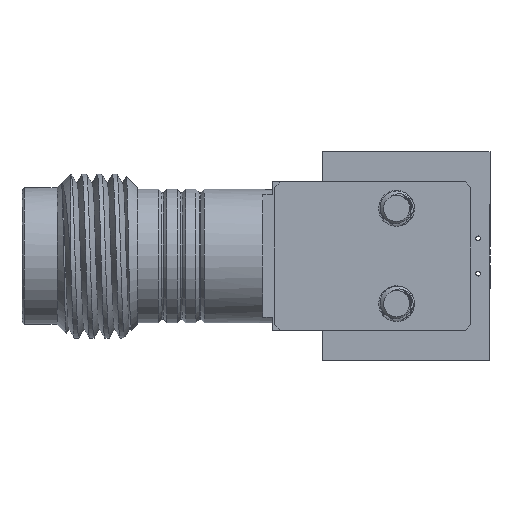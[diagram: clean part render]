
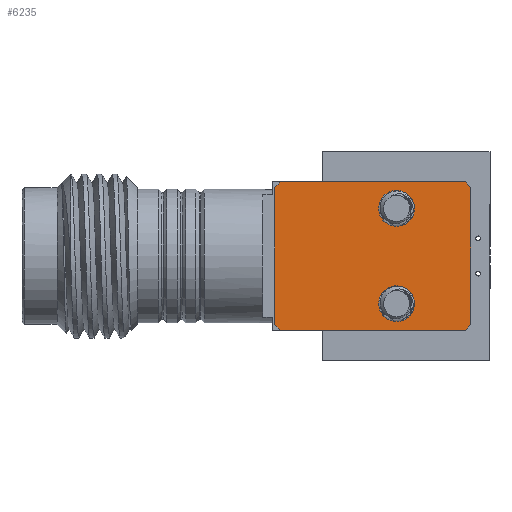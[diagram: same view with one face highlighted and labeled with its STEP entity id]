
A CAD part, front view. The second image highlights one B-rep face of the part: STEP entity #6235.
In plain terms, the highlighted planar face has unit normal (0, -1, 0) as drawn and (0, 0, -1) by its records, which use the part's own axes.
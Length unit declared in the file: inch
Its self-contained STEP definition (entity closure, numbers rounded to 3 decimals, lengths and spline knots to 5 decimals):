
#173 = CARTESIAN_POINT ( 'NONE',  ( 0.125, 0.115, 0. ) ) ;
#306 = VERTEX_POINT ( 'NONE', #14431 ) ;
#560 = DIRECTION ( 'NONE',  ( 1., 0., 0. ) ) ;
#629 = CARTESIAN_POINT ( 'NONE',  ( 0.125, -0.115, 0. ) ) ;
#1202 = VECTOR ( 'NONE', #1735, 39.37008 ) ;
#1251 = FACE_OUTER_BOUND ( 'NONE', #11007, .T. ) ;
#1386 = CARTESIAN_POINT ( 'NONE',  ( -0.205, -0.115, 0. ) ) ;
#1623 = AXIS2_PLACEMENT_3D ( 'NONE', #17322, #2413, #560 ) ;
#1735 = DIRECTION ( 'NONE',  ( -0.707, 0.707, 0. ) ) ;
#2097 = LINE ( 'NONE', #17217, #9589 ) ;
#2172 = CARTESIAN_POINT ( 'NONE',  ( -0.16, -0.16, 0. ) ) ;
#2413 = DIRECTION ( 'NONE',  ( 0., 0., 1. ) ) ;
#2868 = VERTEX_POINT ( 'NONE', #16639 ) ;
#2930 = VERTEX_POINT ( 'NONE', #629 ) ;
#3319 = VERTEX_POINT ( 'NONE', #8152 ) ;
#3535 = EDGE_CURVE ( 'NONE', #2868, #6765, #16944, .T. ) ;
#3659 = CARTESIAN_POINT ( 'NONE',  ( 0.125, 0.21868, 0. ) ) ;
#3806 = CARTESIAN_POINT ( 'NONE',  ( 0., 0.08, 0. ) ) ;
#4150 = ORIENTED_EDGE ( 'NONE', *, *, #5971, .F. ) ;
#4882 = VERTEX_POINT ( 'NONE', #1386 ) ;
#4918 = VERTEX_POINT ( 'NONE', #13208 ) ;
#4966 = CARTESIAN_POINT ( 'NONE',  ( 0., 0., 0. ) ) ;
#5395 = DIRECTION ( 'NONE',  ( 0., -1., 0. ) ) ;
#5714 = EDGE_CURVE ( 'NONE', #4918, #4918, #15525, .T. ) ;
#5971 = EDGE_CURVE ( 'NONE', #3319, #4882, #16548, .T. ) ;
#5995 = CARTESIAN_POINT ( 'NONE',  ( 0.02345, 0.08, 0. ) ) ;
#6235 = ADVANCED_FACE ( 'NONE', ( #16177, #14883, #1251 ), #21476, .T. ) ;
#6393 = VERTEX_POINT ( 'NONE', #19851 ) ;
#6765 = VERTEX_POINT ( 'NONE', #173 ) ;
#7292 = DIRECTION ( 'NONE',  ( 0., 0., 1. ) ) ;
#8108 = CARTESIAN_POINT ( 'NONE',  ( 0.12, -0.12, 0. ) ) ;
#8152 = CARTESIAN_POINT ( 'NONE',  ( -0.205, 0.115, 0. ) ) ;
#8418 = EDGE_CURVE ( 'NONE', #2868, #306, #10059, .T. ) ;
#8432 = LINE ( 'NONE', #8108, #11599 ) ;
#8472 = CARTESIAN_POINT ( 'NONE',  ( 0.12, 0.12, 0. ) ) ;
#8496 = VECTOR ( 'NONE', #9722, 39.37008 ) ;
#8949 = VECTOR ( 'NONE', #21422, 39.37008 ) ;
#8973 = DIRECTION ( 'NONE',  ( 1., 0., 0. ) ) ;
#9589 = VECTOR ( 'NONE', #8973, 39.37008 ) ;
#9722 = DIRECTION ( 'NONE',  ( 0.707, 0.707, 0. ) ) ;
#9847 = DIRECTION ( 'NONE',  ( -0.707, -0.707, 0. ) ) ;
#10059 = LINE ( 'NONE', #16581, #21470 ) ;
#10195 = ORIENTED_EDGE ( 'NONE', *, *, #5714, .T. ) ;
#10207 = DIRECTION ( 'NONE',  ( 0.707, -0.707, 0. ) ) ;
#10343 = CARTESIAN_POINT ( 'NONE',  ( -0.205, 0.25954, 0. ) ) ;
#11007 = EDGE_LOOP ( 'NONE', ( #4150, #19813, #12088, #15592, #15415, #13907, #19898, #15442 ) ) ;
#11348 = CARTESIAN_POINT ( 'NONE',  ( -0.195, -0.125, 0. ) ) ;
#11392 = DIRECTION ( 'NONE',  ( 0., 0., -1. ) ) ;
#11599 = VECTOR ( 'NONE', #9847, 39.37008 ) ;
#11730 = EDGE_CURVE ( 'NONE', #14389, #4882, #20049, .T. ) ;
#12088 = ORIENTED_EDGE ( 'NONE', *, *, #8418, .F. ) ;
#12245 = VERTEX_POINT ( 'NONE', #5995 ) ;
#12421 = DIRECTION ( 'NONE',  ( 1., 0., 0. ) ) ;
#12779 = VECTOR ( 'NONE', #10207, 39.37008 ) ;
#12927 = DIRECTION ( 'NONE',  ( -1., 0., 0. ) ) ;
#13208 = CARTESIAN_POINT ( 'NONE',  ( 0.02345, -0.08, 0. ) ) ;
#13554 = AXIS2_PLACEMENT_3D ( 'NONE', #4966, #11392, #12927 ) ;
#13907 = ORIENTED_EDGE ( 'NONE', *, *, #16763, .T. ) ;
#14132 = CIRCLE ( 'NONE', #20381, 0.02345 ) ;
#14389 = VERTEX_POINT ( 'NONE', #11348 ) ;
#14431 = CARTESIAN_POINT ( 'NONE',  ( -0.195, 0.125, 0. ) ) ;
#14513 = LINE ( 'NONE', #17665, #8496 ) ;
#14883 = FACE_BOUND ( 'NONE', #18320, .T. ) ;
#15171 = ORIENTED_EDGE ( 'NONE', *, *, #20749, .T. ) ;
#15414 = LINE ( 'NONE', #3659, #16109 ) ;
#15415 = ORIENTED_EDGE ( 'NONE', *, *, #16687, .T. ) ;
#15442 = ORIENTED_EDGE ( 'NONE', *, *, #11730, .T. ) ;
#15445 = EDGE_LOOP ( 'NONE', ( #15171 ) ) ;
#15525 = CIRCLE ( 'NONE', #1623, 0.02345 ) ;
#15592 = ORIENTED_EDGE ( 'NONE', *, *, #3535, .T. ) ;
#16109 = VECTOR ( 'NONE', #5395, 39.37008 ) ;
#16177 = FACE_BOUND ( 'NONE', #15445, .T. ) ;
#16548 = LINE ( 'NONE', #10343, #8949 ) ;
#16581 = CARTESIAN_POINT ( 'NONE',  ( -0.115, 0.125, 0. ) ) ;
#16639 = CARTESIAN_POINT ( 'NONE',  ( 0.115, 0.125, 0. ) ) ;
#16687 = EDGE_CURVE ( 'NONE', #6765, #2930, #15414, .T. ) ;
#16763 = EDGE_CURVE ( 'NONE', #2930, #6393, #8432, .T. ) ;
#16944 = LINE ( 'NONE', #8472, #12779 ) ;
#17217 = CARTESIAN_POINT ( 'NONE',  ( -0.115, -0.125, 0. ) ) ;
#17322 = CARTESIAN_POINT ( 'NONE',  ( 0., -0.08, 0. ) ) ;
#17665 = CARTESIAN_POINT ( 'NONE',  ( -0.16, 0.16, 0. ) ) ;
#18320 = EDGE_LOOP ( 'NONE', ( #10195 ) ) ;
#18344 = EDGE_CURVE ( 'NONE', #3319, #306, #14513, .T. ) ;
#19813 = ORIENTED_EDGE ( 'NONE', *, *, #18344, .T. ) ;
#19851 = CARTESIAN_POINT ( 'NONE',  ( 0.115, -0.125, 0. ) ) ;
#19898 = ORIENTED_EDGE ( 'NONE', *, *, #20250, .F. ) ;
#19977 = DIRECTION ( 'NONE',  ( -1., 0., 0. ) ) ;
#20049 = LINE ( 'NONE', #2172, #1202 ) ;
#20250 = EDGE_CURVE ( 'NONE', #14389, #6393, #2097, .T. ) ;
#20381 = AXIS2_PLACEMENT_3D ( 'NONE', #3806, #7292, #12421 ) ;
#20749 = EDGE_CURVE ( 'NONE', #12245, #12245, #14132, .T. ) ;
#21422 = DIRECTION ( 'NONE',  ( 0., -1., 0. ) ) ;
#21470 = VECTOR ( 'NONE', #19977, 39.37008 ) ;
#21476 = PLANE ( 'NONE',  #13554 ) ;
